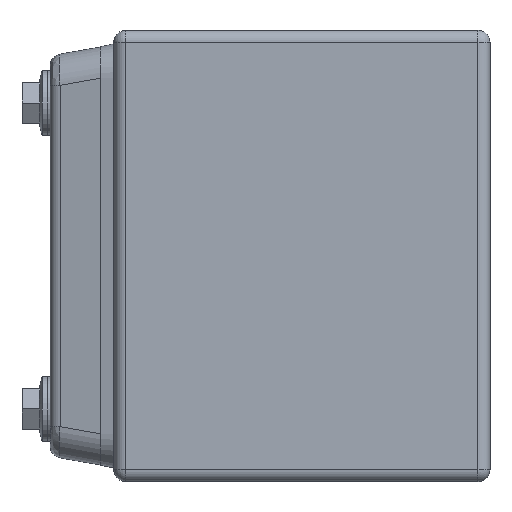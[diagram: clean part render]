
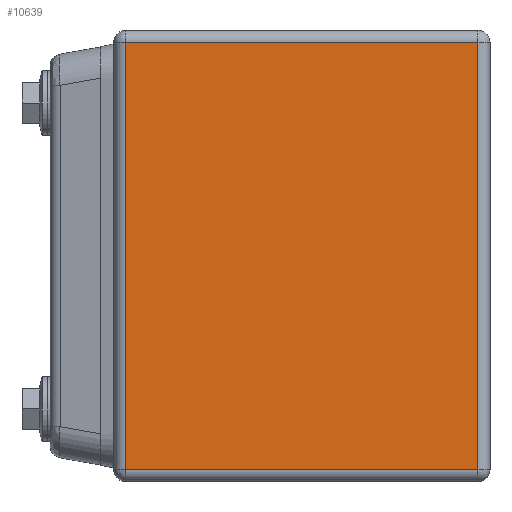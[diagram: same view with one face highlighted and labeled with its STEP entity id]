
A CAD part, left-side view. The second image highlights one B-rep face of the part: STEP entity #10639.
In plain terms, the highlighted planar face has unit normal (-1, 0, 0).
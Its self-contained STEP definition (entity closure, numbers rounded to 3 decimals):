
#380 = FACE_OUTER_BOUND ( 'NONE', #11278, .T. ) ;
#528 = DIRECTION ( 'NONE',  ( 0., 0., 1. ) ) ;
#683 = VECTOR ( 'NONE', #968, 1000. ) ;
#865 = LINE ( 'NONE', #4771, #8861 ) ;
#968 = DIRECTION ( 'NONE',  ( 0., -1., 0. ) ) ;
#1320 = VERTEX_POINT ( 'NONE', #9879 ) ;
#2001 = CARTESIAN_POINT ( 'NONE',  ( -70., 2.4, 42.6 ) ) ;
#2804 = EDGE_CURVE ( 'NONE', #12575, #7557, #14907, .T. ) ;
#3546 = VECTOR ( 'NONE', #9719, 1000. ) ;
#3721 = DIRECTION ( 'NONE',  ( 0., 0., -1. ) ) ;
#3967 = LINE ( 'NONE', #14215, #13224 ) ;
#4023 = ORIENTED_EDGE ( 'NONE', *, *, #9118, .T. ) ;
#4771 = CARTESIAN_POINT ( 'NONE',  ( -70., 75., 42.6 ) ) ;
#5088 = ORIENTED_EDGE ( 'NONE', *, *, #2804, .T. ) ;
#6356 = CARTESIAN_POINT ( 'NONE',  ( -70., 72.6, -42.6 ) ) ;
#7444 = AXIS2_PLACEMENT_3D ( 'NONE', #15891, #15970, #528 ) ;
#7557 = VERTEX_POINT ( 'NONE', #2001 ) ;
#7647 = VERTEX_POINT ( 'NONE', #6356 ) ;
#8180 = CARTESIAN_POINT ( 'NONE',  ( -70., 75., -42.6 ) ) ;
#8861 = VECTOR ( 'NONE', #13759, 1000. ) ;
#9118 = EDGE_CURVE ( 'NONE', #7557, #1320, #865, .T. ) ;
#9719 = DIRECTION ( 'NONE',  ( 0., 0., 1. ) ) ;
#9879 = CARTESIAN_POINT ( 'NONE',  ( -70., 72.6, 42.6 ) ) ;
#10639 = ADVANCED_FACE ( 'NONE', ( #380 ), #13431, .T. ) ;
#10772 = EDGE_CURVE ( 'NONE', #7647, #12575, #11956, .T. ) ;
#10968 = CARTESIAN_POINT ( 'NONE',  ( -70., 2.4, 45. ) ) ;
#11278 = EDGE_LOOP ( 'NONE', ( #15423, #13991, #5088, #4023 ) ) ;
#11956 = LINE ( 'NONE', #8180, #683 ) ;
#12575 = VERTEX_POINT ( 'NONE', #16121 ) ;
#13224 = VECTOR ( 'NONE', #3721, 1000. ) ;
#13431 = PLANE ( 'NONE',  #7444 ) ;
#13759 = DIRECTION ( 'NONE',  ( 0., 1., 0. ) ) ;
#13991 = ORIENTED_EDGE ( 'NONE', *, *, #10772, .T. ) ;
#14215 = CARTESIAN_POINT ( 'NONE',  ( -70., 72.6, -45. ) ) ;
#14601 = EDGE_CURVE ( 'NONE', #1320, #7647, #3967, .T. ) ;
#14907 = LINE ( 'NONE', #10968, #3546 ) ;
#15423 = ORIENTED_EDGE ( 'NONE', *, *, #14601, .T. ) ;
#15891 = CARTESIAN_POINT ( 'NONE',  ( -70., 75., 45. ) ) ;
#15970 = DIRECTION ( 'NONE',  ( -1., 0., 0. ) ) ;
#16121 = CARTESIAN_POINT ( 'NONE',  ( -70., 2.4, -42.6 ) ) ;
